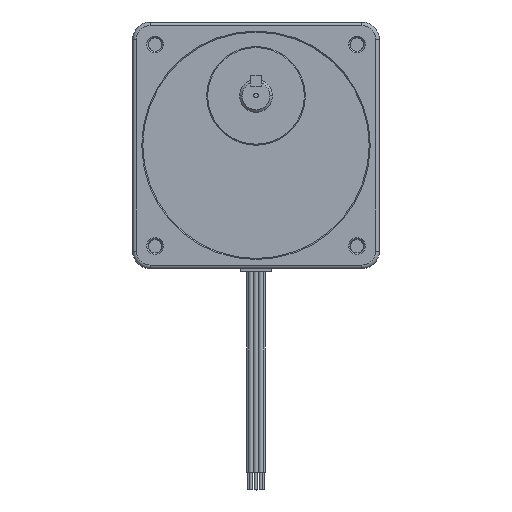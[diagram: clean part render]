
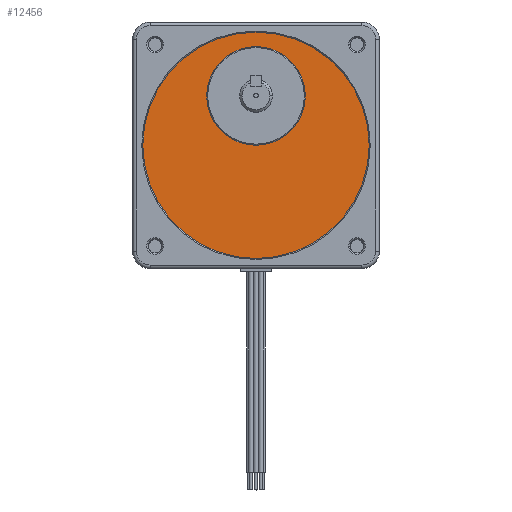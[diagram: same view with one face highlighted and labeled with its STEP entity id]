
A CAD part, top view. The second image highlights one B-rep face of the part: STEP entity #12456.
In plain terms, the highlighted planar face has unit normal (0, 0, 1).
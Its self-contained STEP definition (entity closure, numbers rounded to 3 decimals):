
#1579 = EDGE_CURVE ( 'NONE', #19170, #19161, #3542, .T. ) ;
#3542 = CIRCLE ( 'NONE', #3564, 41.275 ) ;
#3561 = DIRECTION ( 'NONE',  ( 1., 0., 0. ) ) ;
#3562 = DIRECTION ( 'NONE',  ( 0., 0., 1. ) ) ;
#3563 = CARTESIAN_POINT ( 'NONE',  ( 0., 0., 59. ) ) ;
#3564 = AXIS2_PLACEMENT_3D ( 'NONE', #3563, #3562, #3561 ) ;
#5061 = EDGE_CURVE ( 'NONE', #12590, #12370, #10250, .T. ) ;
#10218 = AXIS2_PLACEMENT_3D ( 'NONE', #10249, #10248, #10247 ) ;
#10247 = DIRECTION ( 'NONE',  ( 1., 0., 0. ) ) ;
#10248 = DIRECTION ( 'NONE',  ( 0., 0., 1. ) ) ;
#10249 = CARTESIAN_POINT ( 'NONE',  ( 0., 18.009, 59. ) ) ;
#10250 = CIRCLE ( 'NONE', #10218, 17.996 ) ;
#12346 = ORIENTED_EDGE ( 'NONE', *, *, #5061, .F. ) ;
#12370 = VERTEX_POINT ( 'NONE', #14768 ) ;
#12438 = EDGE_CURVE ( 'NONE', #12370, #12590, #15021, .T. ) ;
#12443 = ORIENTED_EDGE ( 'NONE', *, *, #12444, .T. ) ;
#12444 = EDGE_CURVE ( 'NONE', #19161, #19170, #15044, .T. ) ;
#12454 = EDGE_LOOP ( 'NONE', ( #12474, #12346 ) ) ;
#12456 = ADVANCED_FACE ( 'NONE', ( #15059, #15037 ), #15086, .T. ) ;
#12468 = ORIENTED_EDGE ( 'NONE', *, *, #1579, .T. ) ;
#12470 = EDGE_LOOP ( 'NONE', ( #12443, #12468 ) ) ;
#12474 = ORIENTED_EDGE ( 'NONE', *, *, #12438, .F. ) ;
#12590 = VERTEX_POINT ( 'NONE', #15515 ) ;
#14768 = CARTESIAN_POINT ( 'NONE',  ( -17.996, 18.009, 59. ) ) ;
#15021 = CIRCLE ( 'NONE', #15052, 17.996 ) ;
#15034 = DIRECTION ( 'NONE',  ( 1., 0., 0. ) ) ;
#15035 = DIRECTION ( 'NONE',  ( 0., 0., 1. ) ) ;
#15036 = CARTESIAN_POINT ( 'NONE',  ( 0., 0., 59. ) ) ;
#15037 = FACE_BOUND ( 'NONE', #12454, .T. ) ;
#15039 = AXIS2_PLACEMENT_3D ( 'NONE', #15067, #15066, #15065 ) ;
#15044 = CIRCLE ( 'NONE', #15053, 41.275 ) ;
#15051 = DIRECTION ( 'NONE',  ( 1., 0., 0. ) ) ;
#15052 = AXIS2_PLACEMENT_3D ( 'NONE', #15060, #15058, #15051 ) ;
#15053 = AXIS2_PLACEMENT_3D ( 'NONE', #15036, #15035, #15034 ) ;
#15058 = DIRECTION ( 'NONE',  ( 0., 0., 1. ) ) ;
#15059 = FACE_OUTER_BOUND ( 'NONE', #12470, .T. ) ;
#15060 = CARTESIAN_POINT ( 'NONE',  ( 0., 18.009, 59. ) ) ;
#15065 = DIRECTION ( 'NONE',  ( 1., 0., 0. ) ) ;
#15066 = DIRECTION ( 'NONE',  ( 0., 0., 1. ) ) ;
#15067 = CARTESIAN_POINT ( 'NONE',  ( 0., 0., 59. ) ) ;
#15086 = PLANE ( 'NONE',  #15039 ) ;
#15515 = CARTESIAN_POINT ( 'NONE',  ( 17.996, 18.009, 59. ) ) ;
#17847 = CARTESIAN_POINT ( 'NONE',  ( 41.275, 0., 59. ) ) ;
#17849 = CARTESIAN_POINT ( 'NONE',  ( -41.275, 0., 59. ) ) ;
#19161 = VERTEX_POINT ( 'NONE', #17847 ) ;
#19170 = VERTEX_POINT ( 'NONE', #17849 ) ;
